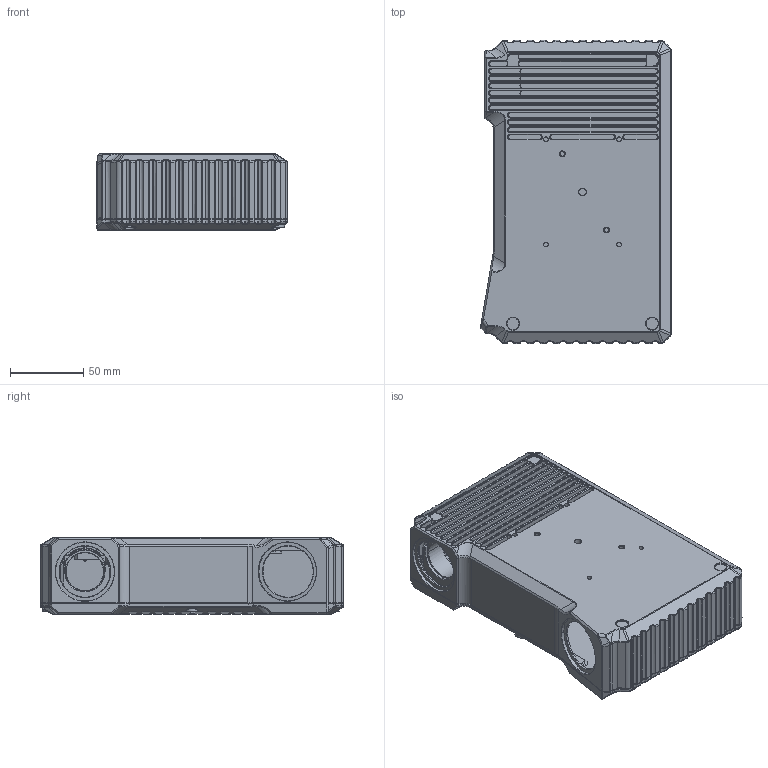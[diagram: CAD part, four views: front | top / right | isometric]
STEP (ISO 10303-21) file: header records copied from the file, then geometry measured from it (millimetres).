
FILE_DESCRIPTION((''),'2;1');
FILE_NAME('DFX808JIJIA_ASM','2024-06-19T',('Ҧ'),(''),'PRO/ENGINEER BY PARAMETRIC TECHNOLOGY CORPORATION, 2010280','PRO/ENGINEER BY PARAMETRIC TECHNOLOGY CORPORATION, 2010280','');
FILE_SCHEMA(('CONFIG_CONTROL_DESIGN'));
Products named in the file (7): 808D; 806BEIBAN; 803-43; 808HUAN; 808-KA; 808S; DFX808JIJIA_ASM
Assembly tree (6 placements, depth 2):
  DFX808JIJIA_ASM
    808D
    806BEIBAN
    803-43
    808HUAN
    808-KA
    808S
Bounding box: 130.45 x 207 x 52 mm (x, y, z)
Volume: 333503.9 mm3; surface area: 210518.9 mm2
Topology: 6 solids, 9 shells, 2994 faces, 7290 edges, 4383 vertices
Faces by surface type: plane 1322, cylinder 765, cone 513, bspline 334, torus 58, sphere 2
Entity records: 96799 total; most frequent: CARTESIAN_POINT 28432, ORIENTED_EDGE 14558, DIRECTION 13582, EDGE_CURVE 7279, AXIS2_PLACEMENT_3D 4593, VECTOR 4396, LINE 4396, VERTEX_POINT 4383
